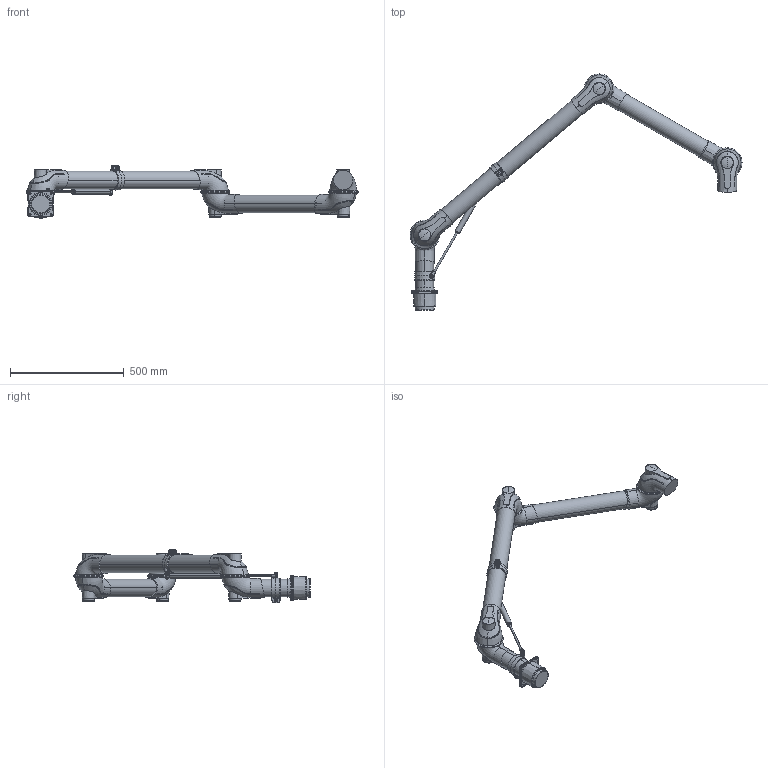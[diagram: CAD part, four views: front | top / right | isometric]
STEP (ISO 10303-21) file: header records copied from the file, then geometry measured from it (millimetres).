
FILE_DESCRIPTION((''),'2;1');
FILE_NAME('102350','2015-10-05T',('Tomas Bellgran'),(''),'PRO/ENGINEER BY PARAMETRIC TECHNOLOGY CORPORATION, 2013410','PRO/ENGINEER BY PARAMETRIC TECHNOLOGY CORPORATION, 2013410','');
FILE_SCHEMA(('AUTOMOTIVE_DESIGN { 1 0 10303 214 1 1 1 1 }'));
Length unit declared in the file: millimetre
Products named in the file (30): 100350; 100455; 102184; 105-5475-01; 102320; 102181; 102325; 102188; 102314; 105-5475-02; 9529063; 105-5481; 101156; 102312; 105-561-01; 105-562-01; 9900438; 105-560-01; 9900055; GAS_SPRING_BANBACH_CYLB; GAS_SPRING_BANBACH-TUBE_AF5; 100345; GAS_SPRING_BANBACH_ROD; GAS_SPRING_BANBACH_RODHEAD; 100345-REF; LOCK_NUT_M8_DIN985; LOCK_NUT_M8_DIN985_PL; 100107; 9924051; 102350
Assembly tree (42 placements, depth 4):
  102350
    102320
      100350
      100455  x2
      102184
      105-5475-01
    102325
      105-5475-01  x2
      102181
    102314
      102188
      105-5475-01
    102312
      105-5475-02  x2
      9529063
      101156
        105-5481
    101156  x2
      105-5481
    105-560-01  x2
      105-561-01
      105-562-01
      9900438
    9900055  x4
    100345
      GAS_SPRING_BANBACH_CYLB
      GAS_SPRING_BANBACH-TUBE_AF5
    100345-REF
      GAS_SPRING_BANBACH_ROD
      GAS_SPRING_BANBACH_RODHEAD
    100107  x2
      LOCK_NUT_M8_DIN985
      LOCK_NUT_M8_DIN985_PL
    9924051  x2
Bounding box: 1458.47 x 1037.54 x 235.4 mm (x, y, z)
Volume: 15162035.5 mm3; surface area: 1121314.9 mm2
Topology: 36 solids, 37 shells, 1104 faces, 2700 edges, 1685 vertices
Faces by surface type: plane 326, cone 287, bspline 256, cylinder 128, torus 82, sphere 25
Entity records: 58584 total; most frequent: CARTESIAN_POINT 30489, ORIENTED_EDGE 2906, DIRECTION 2440, PRESENTATION_STYLE_ASSIGNMENT 1789, STYLED_ITEM 1784, EDGE_CURVE 1453, CURVE_STYLE 1429, PROPERTY_DEFINITION 1357
